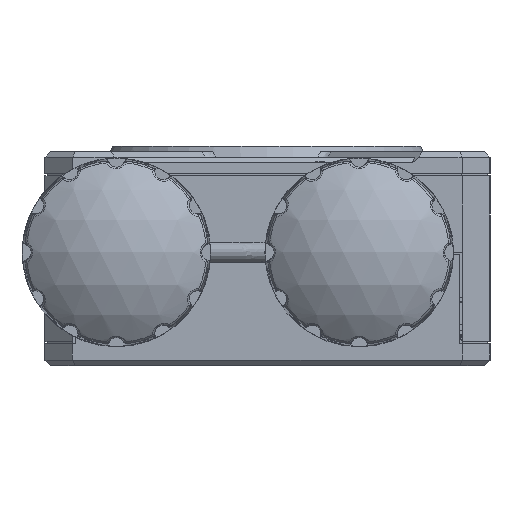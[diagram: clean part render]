
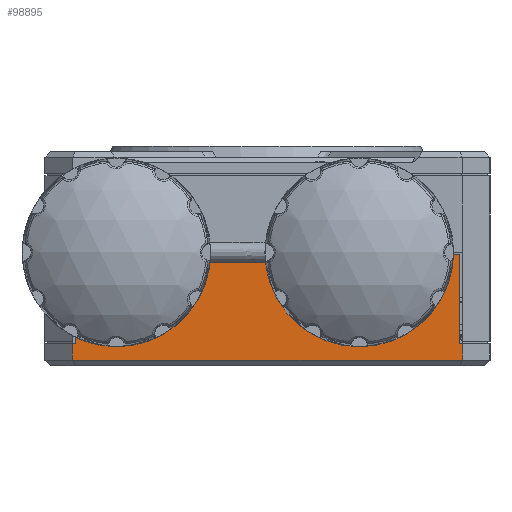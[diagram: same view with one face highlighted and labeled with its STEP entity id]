
A CAD part, left-side view. The second image highlights one B-rep face of the part: STEP entity #98895.
In plain terms, the highlighted planar face has unit normal (-1, 0, 0).
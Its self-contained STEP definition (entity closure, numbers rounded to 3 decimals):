
#1593=CIRCLE('',#102950,0.875);
#1594=CIRCLE('',#102951,0.875);
#8630=LINE('',#144633,#17644);
#8631=LINE('',#144636,#17645);
#8632=LINE('',#144638,#17646);
#8633=LINE('',#144642,#17647);
#8634=LINE('',#144646,#17648);
#8635=LINE('',#144648,#17649);
#8636=LINE('',#144650,#17650);
#8637=LINE('',#144652,#17651);
#8638=LINE('',#144654,#17652);
#8639=LINE('',#144656,#17653);
#8640=LINE('',#144658,#17654);
#8641=LINE('',#144660,#17655);
#17644=VECTOR('',#115241,1000.);
#17645=VECTOR('',#115242,1000.);
#17646=VECTOR('',#115243,1000.);
#17647=VECTOR('',#115246,1000.);
#17648=VECTOR('',#115249,1000.);
#17649=VECTOR('',#115250,1000.);
#17650=VECTOR('',#115251,1000.);
#17651=VECTOR('',#115252,1000.);
#17652=VECTOR('',#115253,1000.);
#17653=VECTOR('',#115254,1000.);
#17654=VECTOR('',#115255,1000.);
#17655=VECTOR('',#115256,1000.);
#34229=ORIENTED_EDGE('',*,*,#50387,.T.);
#34230=ORIENTED_EDGE('',*,*,#50388,.T.);
#34231=ORIENTED_EDGE('',*,*,#50389,.T.);
#34232=ORIENTED_EDGE('',*,*,#50390,.T.);
#34233=ORIENTED_EDGE('',*,*,#50391,.T.);
#34234=ORIENTED_EDGE('',*,*,#50392,.T.);
#34235=ORIENTED_EDGE('',*,*,#50393,.T.);
#34236=ORIENTED_EDGE('',*,*,#50394,.T.);
#34237=ORIENTED_EDGE('',*,*,#50395,.T.);
#34238=ORIENTED_EDGE('',*,*,#50396,.T.);
#34239=ORIENTED_EDGE('',*,*,#50397,.T.);
#34240=ORIENTED_EDGE('',*,*,#50398,.T.);
#34241=ORIENTED_EDGE('',*,*,#50399,.T.);
#34242=ORIENTED_EDGE('',*,*,#50400,.T.);
#50387=EDGE_CURVE('',#61252,#61253,#8630,.T.);
#50388=EDGE_CURVE('',#61253,#61254,#8631,.F.);
#50389=EDGE_CURVE('',#61254,#61255,#8632,.T.);
#50390=EDGE_CURVE('',#61255,#61256,#1593,.F.);
#50391=EDGE_CURVE('',#61256,#61257,#8633,.T.);
#50392=EDGE_CURVE('',#61257,#61258,#1594,.F.);
#50393=EDGE_CURVE('',#61258,#61259,#8634,.T.);
#50394=EDGE_CURVE('',#61259,#61260,#8635,.T.);
#50395=EDGE_CURVE('',#61260,#61261,#8636,.T.);
#50396=EDGE_CURVE('',#61261,#61262,#8637,.F.);
#50397=EDGE_CURVE('',#61262,#61263,#8638,.F.);
#50398=EDGE_CURVE('',#61263,#61264,#8639,.T.);
#50399=EDGE_CURVE('',#61264,#61265,#8640,.F.);
#50400=EDGE_CURVE('',#61265,#61252,#8641,.T.);
#61252=VERTEX_POINT('',#144634);
#61253=VERTEX_POINT('',#144635);
#61254=VERTEX_POINT('',#144637);
#61255=VERTEX_POINT('',#144639);
#61256=VERTEX_POINT('',#144641);
#61257=VERTEX_POINT('',#144643);
#61258=VERTEX_POINT('',#144645);
#61259=VERTEX_POINT('',#144647);
#61260=VERTEX_POINT('',#144649);
#61261=VERTEX_POINT('',#144651);
#61262=VERTEX_POINT('',#144653);
#61263=VERTEX_POINT('',#144655);
#61264=VERTEX_POINT('',#144657);
#61265=VERTEX_POINT('',#144659);
#71637=EDGE_LOOP('',(#34229,#34230,#34231,#34232,#34233,#34234,#34235,#34236,
#34237,#34238,#34239,#34240,#34241,#34242));
#76052=FACE_BOUND('',#71637,.T.);
#79687=PLANE('',#102949);
#98895=ADVANCED_FACE('',(#76052),#79687,.T.);
#102949=AXIS2_PLACEMENT_3D('',#144632,#115239,#115240);
#102950=AXIS2_PLACEMENT_3D('',#144640,#115244,#115245);
#102951=AXIS2_PLACEMENT_3D('',#144644,#115247,#115248);
#115239=DIRECTION('',(-1.,0.,0.));
#115240=DIRECTION('',(0.,0.,1.));
#115241=DIRECTION('',(0.,1.,0.));
#115242=DIRECTION('',(0.,0.,-1.));
#115243=DIRECTION('',(0.,1.,0.));
#115244=DIRECTION('',(-1.,0.,0.));
#115245=DIRECTION('',(0.,0.,-1.));
#115246=DIRECTION('',(0.,1.,0.));
#115247=DIRECTION('',(-1.,0.,0.));
#115248=DIRECTION('',(0.,0.,-1.));
#115249=DIRECTION('',(0.,1.,0.));
#115250=DIRECTION('',(0.,0.,-1.));
#115251=DIRECTION('',(0.,1.,0.));
#115252=DIRECTION('',(0.,0.,1.));
#115253=DIRECTION('',(0.,0.816,0.577));
#115254=DIRECTION('',(0.,-1.,0.));
#115255=DIRECTION('',(0.,0.816,-0.577));
#115256=DIRECTION('',(0.,0.,1.));
#144632=CARTESIAN_POINT('',(-1.729,0.997,-9.232));
#144633=CARTESIAN_POINT('',(-1.729,0.997,-9.232));
#144634=CARTESIAN_POINT('',(-1.729,-16.75,-9.232));
#144635=CARTESIAN_POINT('',(-1.729,-16.5,-9.232));
#144636=CARTESIAN_POINT('',(-1.729,-16.5,1.768));
#144637=CARTESIAN_POINT('',(-1.729,-16.5,-1.1));
#144638=CARTESIAN_POINT('',(-1.729,0.997,-1.1));
#144639=CARTESIAN_POINT('',(-1.729,-8.202,-1.1));
#144640=CARTESIAN_POINT('',(-1.729,-7.35,-0.9));
#144641=CARTESIAN_POINT('',(-1.729,-6.498,-1.1));
#144642=CARTESIAN_POINT('',(-1.729,0.997,-1.1));
#144643=CARTESIAN_POINT('',(-1.729,-1.102,-1.1));
#144644=CARTESIAN_POINT('',(-1.729,-0.25,-0.9));
#144645=CARTESIAN_POINT('',(-1.729,0.602,-1.1));
#144646=CARTESIAN_POINT('',(-1.729,0.997,-1.1));
#144647=CARTESIAN_POINT('',(-1.729,18.5,-1.1));
#144648=CARTESIAN_POINT('',(-1.729,18.5,1.768));
#144649=CARTESIAN_POINT('',(-1.729,18.5,-9.232));
#144650=CARTESIAN_POINT('',(-1.729,0.997,-9.232));
#144651=CARTESIAN_POINT('',(-1.729,18.75,-9.232));
#144652=CARTESIAN_POINT('',(-1.729,18.75,-9.232));
#144653=CARTESIAN_POINT('',(-1.729,18.75,-10.702));
#144654=CARTESIAN_POINT('',(-1.729,22.832,-7.815));
#144655=CARTESIAN_POINT('',(-1.729,18.707,-10.732));
#144656=CARTESIAN_POINT('',(-1.729,0.997,-10.732));
#144657=CARTESIAN_POINT('',(-1.729,-16.707,-10.732));
#144658=CARTESIAN_POINT('',(-1.729,-5.611,-18.578));
#144659=CARTESIAN_POINT('',(-1.729,-16.75,-10.702));
#144660=CARTESIAN_POINT('',(-1.729,-16.75,-9.232));
